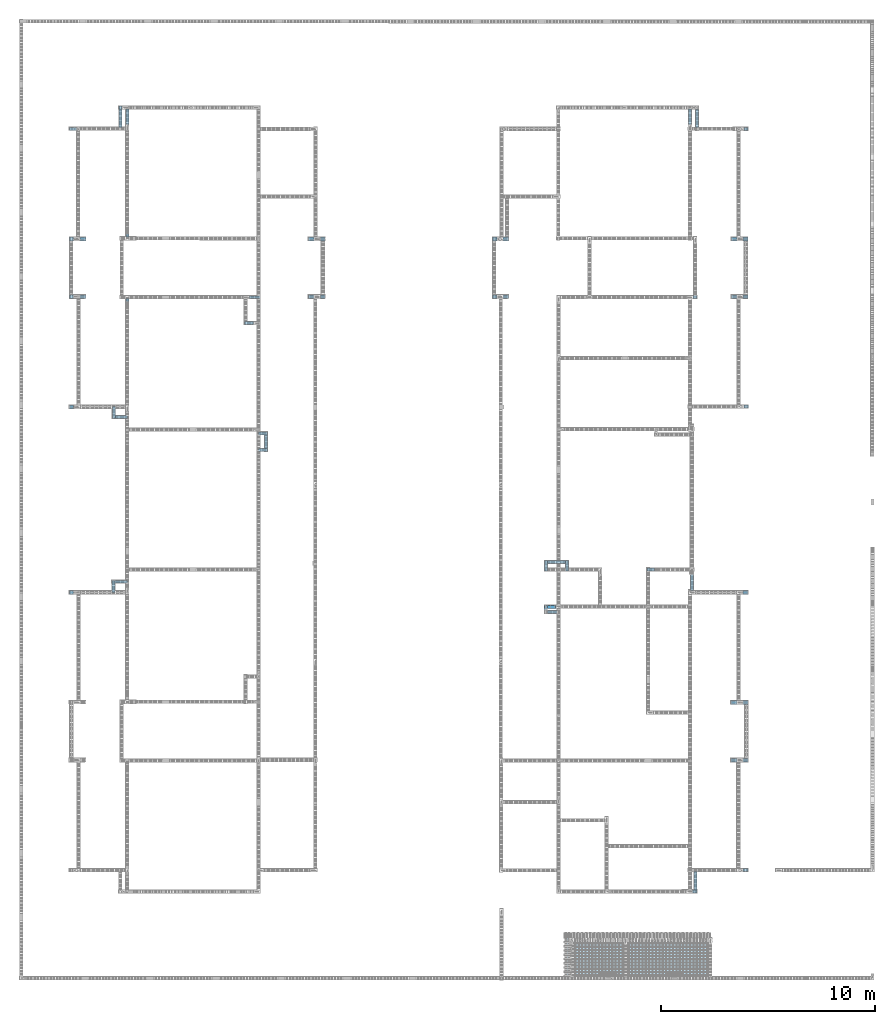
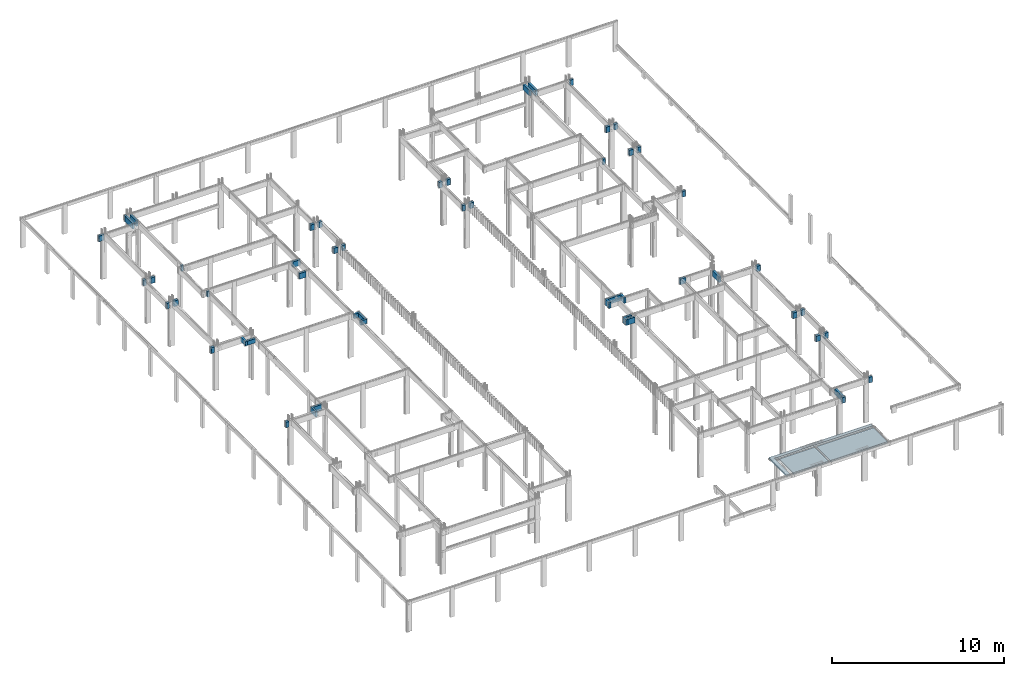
# One storey, part 6 of 236: 54 beams, 3 slabs.
"""IFC4 building model written with IfcOpenShell, lengths in centimetres."""

from ifc_helpers import new_model, si_unit, derived_unit, frame, origin_with_axes, origin_2d_with_axis, place, context, project, spatial, polyline, rectangle, outline, extrude, material, element, save


model = new_model("IFC4")

# Units and contexts
model_context = context("Model", 3, precision=1e-05, world=origin_with_axes(), identifier="Body")
ifc_project = project(units=[si_unit("LENGTHUNIT", "METRE", prefix="CENTI"), si_unit("VOLUMEUNIT", "CUBIC_METRE"), si_unit("AREAUNIT", "SQUARE_METRE"), si_unit("POWERUNIT", "WATT"), si_unit("LUMINOUSFLUXUNIT", "LUMEN"), si_unit("ELECTRICCURRENTUNIT", "AMPERE"), si_unit("PRESSUREUNIT", "PASCAL", prefix="KILO"), si_unit("MASSUNIT", "GRAM", prefix="KILO"), si_unit("PLANEANGLEUNIT", "RADIAN"), derived_unit("VOLUMETRICFLOWRATEUNIT", [(si_unit("LENGTHUNIT", "METRE"), 3), (si_unit("TIMEUNIT", "SECOND"), -1)])], contexts=[model_context])

# Site, building, storey
site_placement = place(None, frame((-4000.0, 0.0, 0.0), z_axis=(0.0, 0.0, 1.0), x_axis=(1.0, 0.0, 0.0)))
site = spatial("IfcSite", under=ifc_project, at=site_placement, Name="PADRÃO")
building_placement = place(site_placement, frame((0.0, 0.0, -14.0)))
building = spatial("IfcBuilding", under=site, at=building_placement, Name="CRECHE PRÉ-ESCOLA TIPO 2")
placement_1 = place(building_placement, origin_with_axes())
placement_2 = place(placement_1, frame((0.0, 0.0, 30.0), z_axis=(0.0, 0.0, 1.0), x_axis=(1.0, 0.0, 0.0)))
storey_placement = place(placement_2, frame((0.0, 0.0, 310.0), z_axis=(0.0, 0.0, 1.0), x_axis=(1.0, 0.0, 0.0)))
storey = spatial("IfcBuildingStorey", under=building, at=storey_placement, Name="TERREO", CompositionType="ELEMENT", Elevation=326.0)

# Beams
ifc_material = material(Name="Concreto")
beam_1_placement = place(storey_placement, frame((472.335, 4085.0, 0.0), z_axis=(0.0, 0.0, 1.0), x_axis=(1.0, 0.0, 0.0)))
element("IfcBeam", 1, at=beam_1_placement, inside=storey, material=ifc_material, Name="V201", context=model_context, shape_type="SolidModel", body=[
    extrude(rectangle(XDim=14.0, YDim=40.0, at=origin_2d_with_axis()), frame((-7.335, 0.0, -20.0), z_axis=(1.0, 0.0, 0.0), x_axis=(0.0, 1.0, 0.0)), (0.0, 0.0, 1.0), 14.67),
])
beam_2_placement = place(storey_placement, frame((249.755, 3986.0, 0.0), z_axis=(0.0, 0.0, 1.0), x_axis=(1.0, 0.0, 0.0)))
element("IfcBeam", 2, at=beam_2_placement, inside=storey, material=ifc_material, Name="V203", context=model_context, shape_type="SolidModel", body=[
    extrude(rectangle(XDim=14.0, YDim=40.0, at=origin_2d_with_axis()), frame((-17.245, 0.0, -20.0), z_axis=(1.0, 0.0, 0.0), x_axis=(0.0, 1.0, 0.0)), (0.0, 0.0, 1.0), 34.49),
])
beam_3_placement = place(storey_placement, frame((3399.75, 3985.01, 0.0), z_axis=(0.0, 0.0, 1.0), x_axis=(1.0, 0.0, 0.0)))
element("IfcBeam", 3, at=beam_3_placement, inside=storey, material=ifc_material, Name="V206", context=model_context, shape_type="SolidModel", body=[
    extrude(rectangle(XDim=14.0, YDim=40.0, at=origin_2d_with_axis()), frame((-9.75, 0.0, -20.0), z_axis=(1.0, 0.0, 0.0), x_axis=(0.0, 1.0, 0.0)), (0.0, 0.0, 1.0), 19.5),
])
beam_4_placement = place(storey_placement, frame((243.19, 3470.0, 0.0), z_axis=(0.0, 0.0, 1.0), x_axis=(1.0, 0.0, 0.0)))
element("IfcBeam", 4, at=beam_4_placement, inside=storey, material=ifc_material, Name="V209", context=model_context, shape_type="SolidModel", body=[
    extrude(rectangle(XDim=17.0, YDim=40.0, at=origin_2d_with_axis()), frame((-8.82, 0.0, -20.0), z_axis=(1.0, 0.0, 0.0), x_axis=(0.0, 1.0, 0.0)), (0.0, 0.0, 1.0), 17.64),
])
beam_5_placement = place(storey_placement, frame((295.755, 3470.0, 0.0), z_axis=(0.0, 0.0, 1.0), x_axis=(1.0, 0.0, 0.0)))
element("IfcBeam", 5, at=beam_5_placement, inside=storey, material=ifc_material, Name="V209", context=model_context, shape_type="SolidModel", body=[
    extrude(rectangle(XDim=17.0, YDim=40.0, at=origin_2d_with_axis()), frame((-13.745, 0.0, -20.0), z_axis=(1.0, 0.0, 0.0), x_axis=(0.0, 1.0, 0.0)), (0.0, 0.0, 1.0), 27.49),
])
beam_6_placement = place(storey_placement, frame((1365.165, 3470.02, 0.0), z_axis=(0.0, 0.0, 1.0), x_axis=(1.0, 0.0, 0.0)))
element("IfcBeam", 6, at=beam_6_placement, inside=storey, material=ifc_material, Name="V211", context=model_context, shape_type="SolidModel", body=[
    extrude(rectangle(XDim=17.0, YDim=40.0, at=origin_2d_with_axis()), frame((-12.675, 0.0, -20.0), z_axis=(1.0, 0.0, 0.0), x_axis=(0.0, 1.0, 0.0)), (0.0, 0.0, 1.0), 25.35),
])
beam_7_placement = place(storey_placement, frame((1418.69321969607, 3470.02822213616, 0.0), z_axis=(0.0, 0.0, 1.0), x_axis=(1.0, 0.0, 0.0)))
element("IfcBeam", 7, at=beam_7_placement, inside=storey, material=ifc_material, Name="V211", context=model_context, shape_type="SolidModel", body=[
    extrude(rectangle(XDim=17.0, YDim=40.0, at=origin_2d_with_axis()), frame((-10.8532196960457, -0.008222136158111, -20.0), z_axis=(1.0, 0.000757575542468, 0.0), x_axis=(-0.000757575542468, 1.0, 0.0)), (0.0, 0.0, 1.0), 21.7064456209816),
])
beam_8_placement = place(storey_placement, frame((2224.145, 3470.02, 0.0), z_axis=(0.0, 0.0, 1.0), x_axis=(1.0, 0.0, 0.0)))
element("IfcBeam", 8, at=beam_8_placement, inside=storey, material=ifc_material, Name="V212", context=model_context, shape_type="SolidModel", body=[
    extrude(rectangle(XDim=17.0, YDim=40.0, at=origin_2d_with_axis()), frame((-9.615, 0.0, -20.0), z_axis=(1.0, 0.0, 0.0), x_axis=(0.0, 1.0, 0.0)), (0.0, 0.0, 1.0), 19.23),
])
beam_9_placement = place(storey_placement, frame((2276.63, 3470.02, 0.0), z_axis=(0.0, 0.0, 1.0), x_axis=(1.0, 0.0, 0.0)))
element("IfcBeam", 9, at=beam_9_placement, inside=storey, material=ifc_material, Name="V212", context=model_context, shape_type="SolidModel", body=[
    extrude(rectangle(XDim=17.0, YDim=40.0, at=origin_2d_with_axis()), frame((-12.87, 0.0, -20.0), z_axis=(1.0, 0.0, 0.0), x_axis=(0.0, 1.0, 0.0)), (0.0, 0.0, 1.0), 25.74),
])
beam_10_placement = place(storey_placement, frame((3345.0, 3470.09, 0.0), z_axis=(0.0, 0.0, 1.0), x_axis=(1.0, 0.0, 0.0)))
element("IfcBeam", 10, at=beam_10_placement, inside=storey, material=ifc_material, Name="V214", context=model_context, shape_type="SolidModel", body=[
    extrude(rectangle(XDim=17.0, YDim=40.0, at=origin_2d_with_axis()), frame((-12.5, 0.0, -20.0), z_axis=(1.0, 0.0, 0.0), x_axis=(0.0, 1.0, 0.0)), (0.0, 0.0, 1.0), 25.0),
])
beam_11_placement = place(storey_placement, frame((3398.49, 3470.09, 0.0), z_axis=(0.0, 0.0, 1.0), x_axis=(1.0, 0.0, 0.0)))
element("IfcBeam", 11, at=beam_11_placement, inside=storey, material=ifc_material, Name="V214", context=model_context, shape_type="SolidModel", body=[
    extrude(rectangle(XDim=17.0, YDim=40.0, at=origin_2d_with_axis()), frame((-10.99, 0.0, -20.0), z_axis=(1.0, 0.0, 0.0), x_axis=(0.0, 1.0, 0.0)), (0.0, 0.0, 1.0), 21.98),
])
beam_12_placement = place(storey_placement, frame((295.75, 3200.5, 0.0), z_axis=(0.0, 0.0, 1.0), x_axis=(1.0, 0.0, 0.0)))
element("IfcBeam", 12, at=beam_12_placement, inside=storey, material=ifc_material, Name="V215", context=model_context, shape_type="SolidModel", body=[
    extrude(rectangle(XDim=17.0, YDim=40.0, at=origin_2d_with_axis()), frame((-13.75, 0.0, -20.0), z_axis=(1.0, 0.0, 0.0), x_axis=(0.0, 1.0, 0.0)), (0.0, 0.0, 1.0), 27.5),
])
beam_13_placement = place(storey_placement, frame((243.185, 3200.5, 0.0), z_axis=(0.0, 0.0, 1.0), x_axis=(1.0, 0.0, 0.0)))
element("IfcBeam", 13, at=beam_13_placement, inside=storey, material=ifc_material, Name="V215", context=model_context, shape_type="SolidModel", body=[
    extrude(rectangle(XDim=17.0, YDim=40.0, at=origin_2d_with_axis()), frame((-8.815, 0.0, -20.0), z_axis=(1.0, 0.0, 0.0), x_axis=(0.0, 1.0, 0.0)), (0.0, 0.0, 1.0), 17.63),
])
beam_14_placement = place(storey_placement, frame((1100.86, 3197.49, 0.0), z_axis=(0.0, 0.0, 1.0), x_axis=(1.0, 0.0, 0.0)))
element("IfcBeam", 14, at=beam_14_placement, inside=storey, material=ifc_material, Name="V216", context=model_context, shape_type="SolidModel", body=[
    extrude(rectangle(XDim=14.0, YDim=40.0, at=origin_2d_with_axis()), frame((-24.86, 0.0, -20.0), z_axis=(1.0, 0.0, 0.0), x_axis=(0.0, 1.0, 0.0)), (0.0, 0.0, 1.0), 49.72),
])
beam_15_placement = place(storey_placement, frame((1365.39, 3200.02, 0.0), z_axis=(0.0, 0.0, 1.0), x_axis=(1.0, 0.0, 0.0)))
element("IfcBeam", 15, at=beam_15_placement, inside=storey, material=ifc_material, Name="V217", context=model_context, shape_type="SolidModel", body=[
    extrude(rectangle(XDim=17.0, YDim=40.0, at=origin_2d_with_axis()), frame((-12.86, 0.0, -20.0), z_axis=(1.0, 0.0, 0.0), x_axis=(0.0, 1.0, 0.0)), (0.0, 0.0, 1.0), 25.72),
])
beam_16_placement = place(storey_placement, frame((1418.895, 3200.02, 0.0), z_axis=(0.0, 0.0, 1.0), x_axis=(1.0, 0.0, 0.0)))
element("IfcBeam", 16, at=beam_16_placement, inside=storey, material=ifc_material, Name="V217", context=model_context, shape_type="SolidModel", body=[
    extrude(rectangle(XDim=17.0, YDim=40.0, at=origin_2d_with_axis()), frame((-10.645, 0.0, -20.0), z_axis=(1.0, 0.0, 0.0), x_axis=(0.0, 1.0, 0.0)), (0.0, 0.0, 1.0), 21.29),
])
beam_17_placement = place(storey_placement, frame((2276.63, 3200.02, 0.0), z_axis=(0.0, 0.0, 1.0), x_axis=(1.0, 0.0, 0.0)))
element("IfcBeam", 17, at=beam_17_placement, inside=storey, material=ifc_material, Name="V218", context=model_context, shape_type="SolidModel", body=[
    extrude(rectangle(XDim=17.0, YDim=40.0, at=origin_2d_with_axis()), frame((-12.87, 0.0, -20.0), z_axis=(1.0, 0.0, 0.0), x_axis=(0.0, 1.0, 0.0)), (0.0, 0.0, 1.0), 25.74),
])
beam_18_placement = place(storey_placement, frame((2224.145, 3200.02, 0.0), z_axis=(0.0, 0.0, 1.0), x_axis=(1.0, 0.0, 0.0)))
element("IfcBeam", 18, at=beam_18_placement, inside=storey, material=ifc_material, Name="V218", context=model_context, shape_type="SolidModel", body=[
    extrude(rectangle(XDim=17.0, YDim=40.0, at=origin_2d_with_axis()), frame((-9.615, 0.0, -20.0), z_axis=(1.0, 0.0, 0.0), x_axis=(0.0, 1.0, 0.0)), (0.0, 0.0, 1.0), 19.23),
])
beam_19_placement = place(storey_placement, frame((3162.0, 3197.52, 0.0), z_axis=(0.0, 0.0, 1.0), x_axis=(1.0, 0.0, 0.0)))
element("IfcBeam", 19, at=beam_19_placement, inside=storey, material=ifc_material, Name="V219", context=model_context, shape_type="SolidModel", body=[
    extrude(rectangle(XDim=14.0, YDim=40.0, at=origin_2d_with_axis()), frame((-8.5, 0.0, -20.0), z_axis=(1.0, 0.0, 0.0), x_axis=(0.0, 1.0, 0.0)), (0.0, 0.0, 1.0), 17.0),
])
beam_20_placement = place(storey_placement, frame((3345.0, 3200.09, 0.0), z_axis=(0.0, 0.0, 1.0), x_axis=(1.0, 0.0, 0.0)))
element("IfcBeam", 20, at=beam_20_placement, inside=storey, material=ifc_material, Name="V220", context=model_context, shape_type="SolidModel", body=[
    extrude(rectangle(XDim=17.0, YDim=40.0, at=origin_2d_with_axis()), frame((-12.5, 0.0, -20.0), z_axis=(1.0, 0.0, 0.0), x_axis=(0.0, 1.0, 0.0)), (0.0, 0.0, 1.0), 25.0),
])
beam_21_placement = place(storey_placement, frame((3398.49315281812, 3200.08184484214, 0.0), z_axis=(0.0, 0.0, 1.0), x_axis=(1.0, 0.0, 0.0)))
element("IfcBeam", 21, at=beam_21_placement, inside=storey, material=ifc_material, Name="V220", context=model_context, shape_type="SolidModel", body=[
    extrude(rectangle(XDim=17.0, YDim=40.0, at=origin_2d_with_axis()), frame((-10.9931528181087, 0.0081551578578, -20.0), z_axis=(1.0, -0.000741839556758, 0.0), x_axis=(0.000741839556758, 1.0, 0.0)), (0.0, 0.0, 1.0), 21.9863116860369),
])
beam_22_placement = place(storey_placement, frame((1073.11, 3076.5, 0.0), z_axis=(0.0, 0.0, 1.0), x_axis=(1.0, 0.0, 0.0)))
element("IfcBeam", 22, at=beam_22_placement, inside=storey, material=ifc_material, Name="V221", context=model_context, shape_type="SolidModel", body=[
    extrude(rectangle(XDim=14.0, YDim=40.0, at=origin_2d_with_axis()), frame((-21.61, 0.0, -20.0), z_axis=(1.0, 0.0, 0.0), x_axis=(0.0, 1.0, 0.0)), (0.0, 0.0, 1.0), 43.22),
])
beam_23_placement = place(storey_placement, frame((242.75, 2683.51, 0.0), z_axis=(0.0, 0.0, 1.0), x_axis=(1.0, 0.0, 0.0)))
element("IfcBeam", 23, at=beam_23_placement, inside=storey, material=ifc_material, Name="V223", context=model_context, shape_type="SolidModel", body=[
    extrude(rectangle(XDim=17.0, YDim=40.0, at=origin_2d_with_axis()), frame((-10.25, 0.0, -20.0), z_axis=(1.0, 0.0, 0.0), x_axis=(0.0, 1.0, 0.0)), (0.0, 0.0, 1.0), 20.5),
])
beam_24_placement = place(storey_placement, frame((475.84, 2636.01, 0.0), z_axis=(0.0, 0.0, 1.0), x_axis=(1.0, 0.0, 0.0)))
element("IfcBeam", 24, at=beam_24_placement, inside=storey, material=ifc_material, Name="V224", context=model_context, shape_type="SolidModel", body=[
    extrude(rectangle(XDim=14.0, YDim=30.0, at=origin_2d_with_axis()), frame((-27.85, 0.0, -15.0), z_axis=(1.0, 0.0, 0.0), x_axis=(0.0, 1.0, 0.0)), (0.0, 0.0, 1.0), 55.7),
])
beam_25_placement = place(storey_placement, frame((3401.0, 2685.01, 0.0), z_axis=(0.0, 0.0, 1.0), x_axis=(1.0, 0.0, 0.0)))
element("IfcBeam", 25, at=beam_25_placement, inside=storey, material=ifc_material, Name="V225", context=model_context, shape_type="SolidModel", body=[
    extrude(rectangle(XDim=14.0, YDim=40.0, at=origin_2d_with_axis()), frame((-10.0, 0.0, -20.0), z_axis=(1.0, 0.0, 0.0), x_axis=(0.0, 1.0, 0.0)), (0.0, 0.0, 1.0), 20.0),
])
for number, where, z_axis, x_axis, name in (
    (26, (1139.645, 2560.0, 0.0), (0.0, 0.0, 1.0), (1.0, 0.0, 0.0), "V227"),
    (27, (1139.645, 2482.5, 0.0), (0.0, 0.0, 1.0), (1.0, 0.0, 0.0), "V230"),
):
    element("IfcBeam", number, at=place(storey_placement, frame(where, z_axis=z_axis, x_axis=x_axis)), inside=storey, material=ifc_material, Name=name, context=model_context, shape_type="SolidModel", body=[
        extrude(rectangle(XDim=14.0, YDim=30.0, at=origin_2d_with_axis()), frame((-20.925, 0.0, -15.0), z_axis=(1.0, 0.0, 0.0), x_axis=(0.0, 1.0, 0.0)), (0.0, 0.0, 1.0), 41.85),
    ])
beam_26_placement = place(storey_placement, frame((2514.0, 1957.35, 0.0), z_axis=(0.0, 0.0, 1.0), x_axis=(1.0, 0.0, 0.0)))
element("IfcBeam", 28, at=beam_26_placement, inside=storey, material=ifc_material, Name="V233", context=model_context, shape_type="SolidModel", body=[
    extrude(rectangle(XDim=14.0, YDim=40.0, at=origin_2d_with_axis()), frame((-42.5, 0.0, -20.0), z_axis=(1.0, 0.0, 0.0), x_axis=(0.0, 1.0, 0.0)), (0.0, 0.0, 1.0), 85.0),
])
beam_27_placement = place(storey_placement, frame((2954.37, 1922.52, 0.0), z_axis=(0.0, 0.0, 1.0), x_axis=(1.0, 0.0, 0.0)))
element("IfcBeam", 29, at=beam_27_placement, inside=storey, material=ifc_material, Name="V234", context=model_context, shape_type="SolidModel", body=[
    extrude(rectangle(XDim=14.0, YDim=40.0, at=origin_2d_with_axis()), frame((-18.13, 0.0, -20.0), z_axis=(1.0, 0.0, 0.0), x_axis=(0.0, 1.0, 0.0)), (0.0, 0.0, 1.0), 36.26),
])
beam_28_placement = place(storey_placement, frame((475.085, 1865.5, 0.0), z_axis=(0.0, 0.0, 1.0), x_axis=(1.0, 0.0, 0.0)))
element("IfcBeam", 30, at=beam_28_placement, inside=storey, material=ifc_material, Name="V235", context=model_context, shape_type="SolidModel", body=[
    extrude(rectangle(XDim=14.0, YDim=40.0, at=origin_2d_with_axis()), frame((-28.605, 0.0, -20.0), z_axis=(1.0, 0.0, 0.0), x_axis=(0.0, 1.0, 0.0)), (0.0, 0.0, 1.0), 57.21),
])
beam_29_placement = place(storey_placement, frame((241.75, 1815.0, 0.0), z_axis=(0.0, 0.0, 1.0), x_axis=(1.0, 0.0, 0.0)))
element("IfcBeam", 31, at=beam_29_placement, inside=storey, material=ifc_material, Name="V236", context=model_context, shape_type="SolidModel", body=[
    extrude(rectangle(XDim=17.0, YDim=40.0, at=origin_2d_with_axis()), frame((-9.25, 0.0, -20.0), z_axis=(1.0, 0.0, 0.0), x_axis=(0.0, 1.0, 0.0)), (0.0, 0.0, 1.0), 18.5),
])
beam_30_placement = place(storey_placement, frame((3398.5, 1815.02, 0.0), z_axis=(0.0, 0.0, 1.0), x_axis=(1.0, 0.0, 0.0)))
element("IfcBeam", 32, at=beam_30_placement, inside=storey, material=ifc_material, Name="V237", context=model_context, shape_type="SolidModel", body=[
    extrude(rectangle(XDim=17.0, YDim=40.0, at=origin_2d_with_axis()), frame((-11.0, 0.0, -20.0), z_axis=(1.0, 0.0, 0.0), x_axis=(0.0, 1.0, 0.0)), (0.0, 0.0, 1.0), 22.0),
])
beam_31_placement = place(storey_placement, frame((2491.25, 1747.84, 0.0), z_axis=(0.0, 0.0, 1.0), x_axis=(1.0, 0.0, 0.0)))
element("IfcBeam", 33, at=beam_31_placement, inside=storey, material=ifc_material, Name="V238", context=model_context, shape_type="SolidModel", body=[
    extrude(rectangle(XDim=14.0, YDim=40.0, at=origin_2d_with_axis()), frame((-19.75, 0.0, -20.0), z_axis=(1.0, 0.0, 0.0), x_axis=(0.0, 1.0, 0.0)), (0.0, 0.0, 1.0), 39.5),
])
beam_32_placement = place(storey_placement, frame((2494.0, 1723.51, 0.0), z_axis=(0.0, 0.0, 1.0), x_axis=(1.0, 0.0, 0.0)))
element("IfcBeam", 34, at=beam_32_placement, inside=storey, material=ifc_material, Name="V239", context=model_context, shape_type="SolidModel", body=[
    extrude(rectangle(XDim=14.0, YDim=40.0, at=origin_2d_with_axis()), frame((-22.5, 0.0, -20.0), z_axis=(1.0, 0.0, 0.0), x_axis=(0.0, 1.0, 0.0)), (0.0, 0.0, 1.0), 45.0),
])
beam_33_placement = place(storey_placement, frame((3344.25, 1300.09, 0.0), z_axis=(0.0, 0.0, 1.0), x_axis=(1.0, 0.0, 0.0)))
element("IfcBeam", 35, at=beam_33_placement, inside=storey, material=ifc_material, Name="V244", context=model_context, shape_type="SolidModel", body=[
    extrude(rectangle(XDim=17.0, YDim=40.0, at=origin_2d_with_axis()), frame((-13.25, 0.0, -20.0), z_axis=(1.0, 0.0, 0.0), x_axis=(0.0, 1.0, 0.0)), (0.0, 0.0, 1.0), 26.5),
])
for number, where, z_axis, x_axis, name in (
    (36, (3399.24, 1300.09, 0.0), (0.0, 0.0, 1.0), (1.0, 0.0, 0.0), "V244"),
    (37, (3399.24, 1030.09, 0.0), (0.0, 0.0, 1.0), (1.0, 0.0, 0.0), "V249"),
):
    element("IfcBeam", number, at=place(storey_placement, frame(where, z_axis=z_axis, x_axis=x_axis)), inside=storey, material=ifc_material, Name=name, context=model_context, shape_type="SolidModel", body=[
        extrude(rectangle(XDim=17.0, YDim=40.0, at=origin_2d_with_axis()), frame((-11.74, 0.0, -20.0), z_axis=(1.0, 0.0, 0.0), x_axis=(0.0, 1.0, 0.0)), (0.0, 0.0, 1.0), 23.48),
    ])
beam_34_placement = place(storey_placement, frame((3344.255, 1030.085, 0.0), z_axis=(0.0, 0.0, 1.0), x_axis=(1.0, 0.0, 0.0)))
element("IfcBeam", 38, at=beam_34_placement, inside=storey, material=ifc_material, Name="V249", context=model_context, shape_type="SolidModel", body=[
    extrude(rectangle(XDim=17.0, YDim=40.0, at=origin_2d_with_axis()), frame((-13.245, -0.005, -20.0), z_axis=(1.0, 0.000377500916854, 0.0), x_axis=(-0.000377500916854, 1.0, 0.0)), (0.0, 0.0, 1.0), 26.4900018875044),
])
beam_35_placement = place(storey_placement, frame((3398.5, 515.01, 0.0), z_axis=(0.0, 0.0, 1.0), x_axis=(1.0, 0.0, 0.0)))
element("IfcBeam", 39, at=beam_35_placement, inside=storey, material=ifc_material, Name="V256", context=model_context, shape_type="SolidModel", body=[
    extrude(rectangle(XDim=14.0, YDim=40.0, at=origin_2d_with_axis()), frame((-11.0, 0.0, -20.0), z_axis=(1.0, 0.0, 0.0), x_axis=(0.0, 1.0, 0.0)), (0.0, 0.0, 1.0), 22.0),
])
beam_36_placement = place(storey_placement, frame((3160.99, 415.01, 0.0), z_axis=(0.0, 0.0, 1.0), x_axis=(1.0, 0.0, 0.0)))
element("IfcBeam", 40, at=beam_36_placement, inside=storey, material=ifc_material, Name="V258", context=model_context, shape_type="SolidModel", body=[
    extrude(rectangle(XDim=14.0, YDim=40.0, at=origin_2d_with_axis()), frame((-9.99, 0.0, -20.0), z_axis=(1.0, 0.0, 0.0), x_axis=(0.0, 1.0, 0.0)), (0.0, 0.0, 1.0), 19.98),
])
beam_37_placement = place(storey_placement, frame((439.48, 1843.75, 0.0), z_axis=(0.0, 0.0, 1.0), x_axis=(1.0, 0.0, 0.0)))
element("IfcBeam", 41, at=beam_37_placement, inside=storey, material=ifc_material, Name="V268", context=model_context, shape_type="SolidModel", body=[
    extrude(rectangle(XDim=14.0, YDim=40.0, at=origin_2d_with_axis()), frame((0.0, -28.75, -20.0), z_axis=(0.0, 1.0, 0.0), x_axis=(-1.0, 0.0, 0.0)), (0.0, 0.0, 1.0), 57.5),
])
beam_38_placement = place(storey_placement, frame((440.99, 2657.01, 0.0), z_axis=(0.0, 0.0, 1.0), x_axis=(1.0, 0.0, 0.0)))
element("IfcBeam", 42, at=beam_38_placement, inside=storey, material=ifc_material, Name="V269", context=model_context, shape_type="SolidModel", body=[
    extrude(rectangle(XDim=14.0, YDim=30.0, at=origin_2d_with_axis()), frame((0.0, -28.0, -15.0), z_axis=(0.0, 1.0, 0.0), x_axis=(-1.0, 0.0, 0.0)), (0.0, 0.0, 1.0), 56.0),
])
beam_39_placement = place(storey_placement, frame((503.69, 3183.495, 0.0), z_axis=(0.0, 0.0, 1.0), x_axis=(1.0, 0.0, 0.0)))
element("IfcBeam", 43, at=beam_39_placement, inside=storey, material=ifc_material, Name="V270", context=model_context, shape_type="SolidModel", body=[
    extrude(rectangle(XDim=14.0, YDim=40.0, at=origin_2d_with_axis()), frame((0.0, -6.995, -20.0), z_axis=(0.0, 1.0, 0.0), x_axis=(-1.0, 0.0, 0.0)), (0.0, 0.0, 1.0), 13.99),
])
beam_40_placement = place(storey_placement, frame((503.67, 4042.25, 0.0), z_axis=(0.0, 0.0, 1.0), x_axis=(1.0, 0.0, 0.0)))
element("IfcBeam", 44, at=beam_40_placement, inside=storey, material=ifc_material, Name="V272", context=model_context, shape_type="SolidModel", body=[
    extrude(rectangle(XDim=14.0, YDim=40.0, at=origin_2d_with_axis()), frame((0.0, -35.75, -20.0), z_axis=(0.0, 1.0, 0.0), x_axis=(-1.0, 0.0, 0.0)), (0.0, 0.0, 1.0), 71.5),
])
beam_41_placement = place(storey_placement, frame((503.66, 3486.49356996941, 0.0), z_axis=(0.0, 0.0, 1.0), x_axis=(1.0, 0.0, 0.0)))
element("IfcBeam", 45, at=beam_41_placement, inside=storey, material=ifc_material, Name="V272", context=model_context, shape_type="SolidModel", body=[
    extrude(rectangle(XDim=14.0, YDim=40.0, at=origin_2d_with_axis()), frame((0.0, -7.00643003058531, -20.0), z_axis=(0.0, 1.0, 0.0), x_axis=(-1.0, 0.0, 0.0)), (0.0, 0.0, 1.0), 14.0128600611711),
])
beam_42_placement = place(storey_placement, frame((472.0, 4035.5, 0.0), z_axis=(0.0, 0.0, 1.0), x_axis=(1.0, 0.0, 0.0)))
element("IfcBeam", 46, at=beam_42_placement, inside=storey, material=ifc_material, Name="V273", context=model_context, shape_type="SolidModel", body=[
    extrude(rectangle(XDim=14.0, YDim=40.0, at=origin_2d_with_axis()), frame((0.0, -42.5, -20.0), z_axis=(0.0, 1.0, 0.0), x_axis=(-1.0, 0.0, 0.0)), (0.0, 0.0, 1.0), 85.0),
])
beam_43_placement = place(storey_placement, frame((1153.57, 2521.25, 0.0), z_axis=(0.0, 0.0, 1.0), x_axis=(1.0, 0.0, 0.0)))
element("IfcBeam", 47, at=beam_43_placement, inside=storey, material=ifc_material, Name="V279", context=model_context, shape_type="SolidModel", body=[
    extrude(rectangle(XDim=14.0, YDim=30.0, at=origin_2d_with_axis()), frame((0.0, -31.75, -15.0), z_axis=(0.0, 1.0, 0.0), x_axis=(-1.0, 0.0, 0.0)), (0.0, 0.0, 1.0), 63.5),
])
beam_44_placement = place(storey_placement, frame((2464.5, 1735.675, 0.0), z_axis=(0.0, 0.0, 1.0), x_axis=(1.0, 0.0, 0.0)))
element("IfcBeam", 48, at=beam_44_placement, inside=storey, material=ifc_material, Name="V294", context=model_context, shape_type="SolidModel", body=[
    extrude(rectangle(XDim=14.0, YDim=40.0, at=origin_2d_with_axis()), frame((0.0, -19.165, -20.0), z_axis=(0.0, 1.0, 0.0), x_axis=(1.0, 0.0, 0.0)), (0.0, 0.0, 1.0), 38.33),
])
beam_45_placement = place(storey_placement, frame((2464.5, 1939.9, 0.0), z_axis=(0.0, 0.0, 1.0), x_axis=(1.0, 0.0, 0.0)))
element("IfcBeam", 49, at=beam_45_placement, inside=storey, material=ifc_material, Name="V295", context=model_context, shape_type="SolidModel", body=[
    extrude(rectangle(XDim=14.0, YDim=40.0, at=origin_2d_with_axis()), frame((0.0, -24.45, -20.0), z_axis=(0.0, 1.0, 0.0), x_axis=(1.0, 0.0, 0.0)), (0.0, 0.0, 1.0), 48.9),
])
beam_46_placement = place(storey_placement, frame((2563.5, 1939.90412489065, 0.0), z_axis=(0.0, 0.0, 1.0), x_axis=(1.0, 0.0, 0.0)))
element("IfcBeam", 50, at=beam_46_placement, inside=storey, material=ifc_material, Name="V298", context=model_context, shape_type="SolidModel", body=[
    extrude(rectangle(XDim=14.0, YDim=40.0, at=origin_2d_with_axis()), frame((0.0, -24.4458751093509, -20.0), z_axis=(0.0, 1.0, 0.0), x_axis=(1.0, 0.0, 0.0)), (0.0, 0.0, 1.0), 48.8917502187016),
])
beam_47_placement = place(storey_placement, frame((3163.98, 465.01, 0.0), z_axis=(0.0, 0.0, 1.0), x_axis=(1.0, 0.0, 0.0)))
element("IfcBeam", 51, at=beam_47_placement, inside=storey, material=ifc_material, Name="V304", context=model_context, shape_type="SolidModel", body=[
    extrude(rectangle(XDim=14.0, YDim=40.0, at=origin_2d_with_axis()), frame((0.0, -43.0, -20.0), z_axis=(0.0, 1.0, 0.0), x_axis=(1.0, 0.0, 0.0)), (0.0, 0.0, 1.0), 86.0),
])
beam_48_placement = place(storey_placement, frame((3148.02, 1861.02, 0.0), z_axis=(0.0, 0.0, 1.0), x_axis=(1.0, 0.0, 0.0)))
element("IfcBeam", 52, at=beam_48_placement, inside=storey, material=ifc_material, Name="V306", context=model_context, shape_type="SolidModel", body=[
    extrude(rectangle(XDim=14.0, YDim=40.0, at=origin_2d_with_axis()), frame((0.0, -37.5, -20.0), z_axis=(0.0, 1.0, 0.0), x_axis=(1.0, 0.0, 0.0)), (0.0, 0.0, 1.0), 75.0),
])
beam_49_placement = place(storey_placement, frame((3138.5, 4042.265, 0.0), z_axis=(0.0, 0.0, 1.0), x_axis=(1.0, 0.0, 0.0)))
element("IfcBeam", 53, at=beam_49_placement, inside=storey, material=ifc_material, Name="V310", context=model_context, shape_type="SolidModel", body=[
    extrude(rectangle(XDim=14.0, YDim=40.0, at=origin_2d_with_axis()), frame((0.0, -35.755, -20.0), z_axis=(0.0, 1.0, 0.0), x_axis=(1.0, 0.0, 0.0)), (0.0, 0.0, 1.0), 71.51),
])
beam_50_placement = place(storey_placement, frame((3171.5, 4034.515, 0.0), z_axis=(0.0, 0.0, 1.0), x_axis=(1.0, 0.0, 0.0)))
element("IfcBeam", 54, at=beam_50_placement, inside=storey, material=ifc_material, Name="V311", context=model_context, shape_type="SolidModel", body=[
    extrude(rectangle(XDim=14.0, YDim=40.0, at=origin_2d_with_axis()), frame((0.0, -42.505, -20.0), z_axis=(0.0, 1.0, 0.0), x_axis=(1.0, 0.0, 0.0)), (0.0, 0.0, 1.0), 85.01),
])

# Slabs
slab_1_placement = place(storey_placement, frame((2709.4745, 96.75, -100.0), z_axis=(0.0, 0.0, 1.0), x_axis=(1.0, 0.0, 0.0)))
element("IfcSlab", 55, at=slab_1_placement, inside=storey, material=ifc_material, Name="L1", PredefinedType="FLOOR", context=model_context, shape_type="SolidModel", body=[
    extrude(outline(polyline([(121.014, 80.75), (-121.014, 80.75), (-121.015, 73.75), (-114.014, 73.75), (-114.014, -80.75), (121.014, -80.75), (121.014, 80.75), (121.014, 80.75)])), frame((0.0005, 0.0, -12.0), z_axis=(0.0, 0.0, 1.0), x_axis=(1.0, 0.0, 0.0)), (0.0, 0.0, 1.0), 12.0),
])
slab_2_placement = place(storey_placement, frame((2892.225, 119.25, -100.0), z_axis=(0.0, 0.0, 1.0), x_axis=(1.0, 0.0, 0.0)))
element("IfcSlab", 56, at=slab_2_placement, inside=storey, material=ifc_material, Name="L2", PredefinedType="FLOOR", context=model_context, shape_type="SolidModel", body=[
    extrude(outline(polyline([(-316.764, 48.25), (-317.764, 48.25), (-317.764, 78.25), (341.764, 78.25), (341.764, 103.25), (-341.764, 103.25), (-341.764, -103.25), (-316.764, -103.25), (-316.764, 48.25), (-316.764, 48.25)])), frame((0.0, 0.0, -12.0), z_axis=(0.0, 0.0, 1.0), x_axis=(1.0, 0.0, 0.0)), (0.0, 0.0, 1.0), 12.0),
])
slab_3_placement = place(storey_placement, frame((3035.7395, 96.75, -100.0), z_axis=(0.0, 0.0, 1.0), x_axis=(1.0, 0.0, 0.0)))
element("IfcSlab", 57, at=slab_3_placement, inside=storey, material=ifc_material, Name="L3", PredefinedType="FLOOR", context=model_context, shape_type="SolidModel", body=[
    extrude(outline(polyline([(191.249, 80.75), (-191.25, 80.75), (-191.25, -80.75), (191.249, -80.75), (191.249, 80.75), (191.249, 80.75)])), frame((0.0005, 0.0, -12.0), z_axis=(0.0, 0.0, 1.0), x_axis=(1.0, 0.0, 0.0)), (0.0, 0.0, 1.0), 12.0),
])

save(model, "model.ifc")
